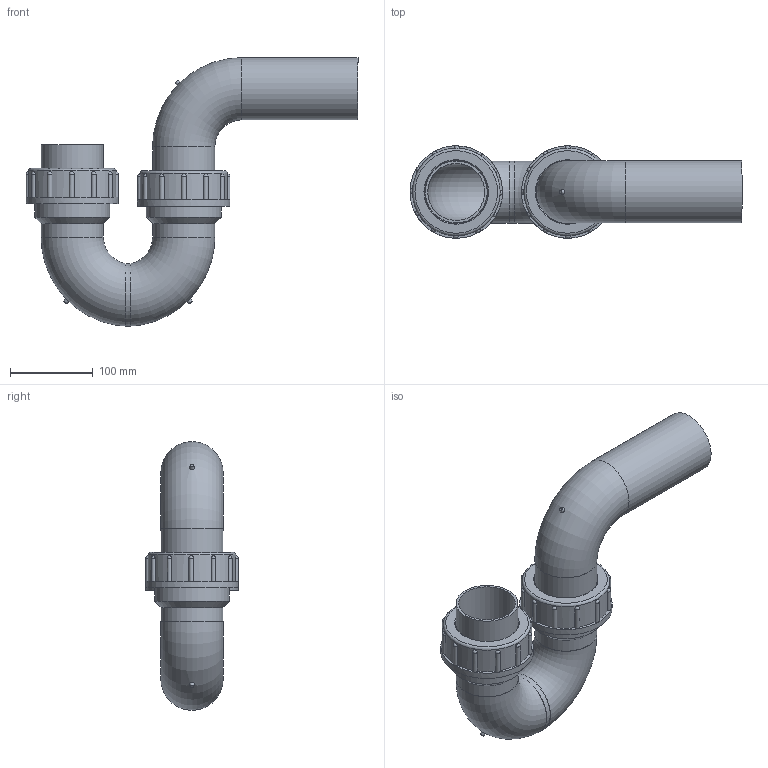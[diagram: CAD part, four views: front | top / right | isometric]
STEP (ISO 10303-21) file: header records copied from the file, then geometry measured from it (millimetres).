
FILE_DESCRIPTION(/* description */ (''),/* implementation_level */ '2;1');
FILE_NAME(/* name */ 'Z:\Geberit\Export\NewStep\Isiphone_Iassembly\stp\365730.stp',/* time_stamp */ '2014-04-02T15:39:36+02:00',/* author */ ('Marco'),/* organization */ (''),/* preprocessor_version */ 'ST-DEVELOPER v15.2',/* originating_system */ 'Autodesk Inventor 2014',/* authorisation */ '');
FILE_SCHEMA (('AUTOMOTIVE_DESIGN { 1 0 10303 214 3 1 1 }'));
Length unit declared in the file: millimetre
Products named in the file (11): 365784; 365055; 861719; 861720; 365055_1; 365772; 365780; 861718; 365730
Bounding box: 401.99 x 112 x 325.35 mm (x, y, z)
Volume: 910904.3 mm3; surface area: 455933.8 mm2
Topology: 9 solids, 9 shells, 156 faces, 388 edges, 232 vertices
Faces by surface type: cylinder 58, plane 51, sphere 24, cone 15, torus 8
Full cylindrical faces by diameter (mm): 69 x4, 69.05 x3, 75 x6, 75.35 x3, 76 x4, 90 x2, 90.4 x4, 95 x4, 106 x2, 112 x2
Entity records: 2795 total; most frequent: CARTESIAN_POINT 730, DIRECTION 442, ORIENTED_EDGE 306, AXIS2_PLACEMENT_3D 209, EDGE_CURVE 153, EDGE_LOOP 128, VERTEX_POINT 117, CIRCLE 103
